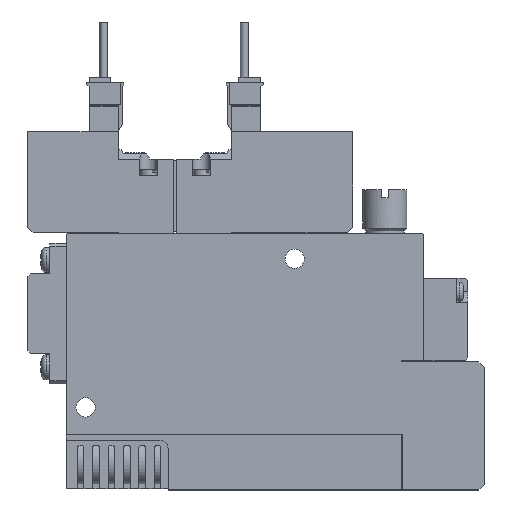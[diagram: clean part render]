
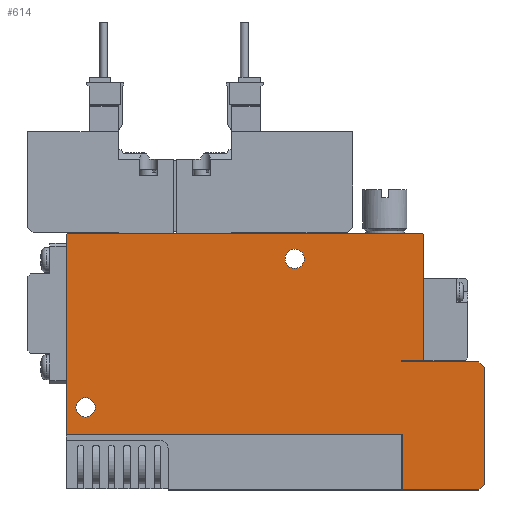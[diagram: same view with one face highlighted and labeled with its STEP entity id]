
A CAD part, top view. The second image highlights one B-rep face of the part: STEP entity #614.
In plain terms, the highlighted planar face has unit normal (0, 0, 1).
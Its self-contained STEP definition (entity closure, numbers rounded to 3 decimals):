
#614=ADVANCED_FACE('',(#1391,#1392,#1393),#1394,.F.);
#1391=FACE_OUTER_BOUND('',#2357,.T.);
#1392=FACE_BOUND('',#2358,.T.);
#1393=FACE_BOUND('',#2359,.T.);
#1394=PLANE('',#2360);
#2357=EDGE_LOOP('',(#5086,#5087,#5088,#5089,#5090,#5091,#5092,#5093,#5094,#5095,#5096,#5097,#5098,#5099));
#2358=EDGE_LOOP('',(#5100));
#2359=EDGE_LOOP('',(#5101));
#2360=AXIS2_PLACEMENT_3D('',#5102,#5103,#5104);
#5086=ORIENTED_EDGE('',*,*,#7228,.T.);
#5087=ORIENTED_EDGE('',*,*,#7229,.F.);
#5088=ORIENTED_EDGE('',*,*,#7230,.F.);
#5089=ORIENTED_EDGE('',*,*,#7231,.T.);
#5090=ORIENTED_EDGE('',*,*,#7232,.T.);
#5091=ORIENTED_EDGE('',*,*,#7233,.T.);
#5092=ORIENTED_EDGE('',*,*,#7234,.T.);
#5093=ORIENTED_EDGE('',*,*,#7235,.T.);
#5094=ORIENTED_EDGE('',*,*,#7236,.T.);
#5095=ORIENTED_EDGE('',*,*,#7237,.T.);
#5096=ORIENTED_EDGE('',*,*,#7238,.T.);
#5097=ORIENTED_EDGE('',*,*,#7239,.T.);
#5098=ORIENTED_EDGE('',*,*,#7240,.T.);
#5099=ORIENTED_EDGE('',*,*,#7241,.T.);
#5100=ORIENTED_EDGE('',*,*,#7242,.F.);
#5101=ORIENTED_EDGE('',*,*,#7243,.F.);
#5102=CARTESIAN_POINT('',(0.0,0.0,5.0));
#5103=DIRECTION('',(0.0,0.0,-1.0));
#5104=DIRECTION('',(0.0,-1.0,0.0));
#7228=EDGE_CURVE('',#8983,#8984,#8985,.T.);
#7229=EDGE_CURVE('',#8986,#8984,#8987,.T.);
#7230=EDGE_CURVE('',#8988,#8986,#8989,.T.);
#7231=EDGE_CURVE('',#8988,#8990,#8991,.T.);
#7232=EDGE_CURVE('',#8990,#8992,#8993,.T.);
#7233=EDGE_CURVE('',#8992,#8994,#8995,.T.);
#7234=EDGE_CURVE('',#8994,#8996,#8997,.T.);
#7235=EDGE_CURVE('',#8996,#8998,#8999,.T.);
#7236=EDGE_CURVE('',#8998,#9000,#9001,.T.);
#7237=EDGE_CURVE('',#9000,#9002,#9003,.T.);
#7238=EDGE_CURVE('',#9002,#9004,#9005,.T.);
#7239=EDGE_CURVE('',#9004,#9006,#9007,.T.);
#7240=EDGE_CURVE('',#9006,#9008,#9009,.T.);
#7241=EDGE_CURVE('',#9008,#8983,#9010,.T.);
#7242=EDGE_CURVE('',#9011,#9011,#9012,.T.);
#7243=EDGE_CURVE('',#9013,#9013,#9014,.T.);
#8983=VERTEX_POINT('',#11824);
#8984=VERTEX_POINT('',#11825);
#8985=LINE('',#11826,#11827);
#8986=VERTEX_POINT('',#11828);
#8987=LINE('',#11829,#11830);
#8988=VERTEX_POINT('',#11831);
#8989=LINE('',#11832,#11833);
#8990=VERTEX_POINT('',#11834);
#8991=LINE('',#11835,#11836);
#8992=VERTEX_POINT('',#11837);
#8993=LINE('',#11838,#11839);
#8994=VERTEX_POINT('',#11840);
#8995=LINE('',#11841,#11842);
#8996=VERTEX_POINT('',#11843);
#8997=LINE('',#11844,#11845);
#8998=VERTEX_POINT('',#11846);
#8999=LINE('',#11847,#11848);
#9000=VERTEX_POINT('',#11849);
#9001=LINE('',#11850,#11851);
#9002=VERTEX_POINT('',#11852);
#9003=LINE('',#11853,#11854);
#9004=VERTEX_POINT('',#11855);
#9005=LINE('',#11856,#11857);
#9006=VERTEX_POINT('',#11858);
#9007=LINE('',#11859,#11860);
#9008=VERTEX_POINT('',#11861);
#9009=LINE('',#11862,#11863);
#9010=LINE('',#11864,#11865);
#9011=VERTEX_POINT('',#11866);
#9012=CIRCLE('',#11867,1.75);
#9013=VERTEX_POINT('',#11868);
#9014=CIRCLE('',#11869,1.75);
#11824=CARTESIAN_POINT('',(0.0,46.4,5.0));
#11825=CARTESIAN_POINT('',(0.0,10.1,5.0));
#11826=CARTESIAN_POINT('',(0.0,46.4,5.0));
#11827=VECTOR('',#13984,1.0);
#11828=CARTESIAN_POINT('',(61.1,10.1,5.0));
#11829=CARTESIAN_POINT('',(61.1,10.1,5.0));
#11830=VECTOR('',#13985,1.0);
#11831=CARTESIAN_POINT('',(61.1,0.0,5.0));
#11832=CARTESIAN_POINT('',(61.1,0.0,5.0));
#11833=VECTOR('',#13986,1.0);
#11834=CARTESIAN_POINT('',(75.0,0.0,5.0));
#11835=CARTESIAN_POINT('',(0.0,0.0,5.0));
#11836=VECTOR('',#13987,1.0);
#11837=CARTESIAN_POINT('',(76.0,1.0,5.0));
#11838=CARTESIAN_POINT('',(75.0,0.0,5.0));
#11839=VECTOR('',#13988,1.0);
#11840=CARTESIAN_POINT('',(76.0,22.25,5.0));
#11841=CARTESIAN_POINT('',(76.0,1.0,5.0));
#11842=VECTOR('',#13989,1.0);
#11843=CARTESIAN_POINT('',(75.0,23.25,5.0));
#11844=CARTESIAN_POINT('',(76.0,22.25,5.0));
#11845=VECTOR('',#13990,1.0);
#11846=CARTESIAN_POINT('',(61.0,23.25,5.0));
#11847=CARTESIAN_POINT('',(75.0,23.25,5.0));
#11848=VECTOR('',#13991,1.0);
#11849=CARTESIAN_POINT('',(61.0,23.5,5.0));
#11850=CARTESIAN_POINT('',(61.0,23.25,5.0));
#11851=VECTOR('',#13992,1.0);
#11852=CARTESIAN_POINT('',(65.0,23.5,5.0));
#11853=CARTESIAN_POINT('',(61.0,23.5,5.0));
#11854=VECTOR('',#13993,1.0);
#11855=CARTESIAN_POINT('',(65.0,46.4,5.0));
#11856=CARTESIAN_POINT('',(65.0,23.5,5.0));
#11857=VECTOR('',#13994,1.0);
#11858=CARTESIAN_POINT('',(64.8,46.6,5.0));
#11859=CARTESIAN_POINT('',(65.0,46.4,5.0));
#11860=VECTOR('',#13995,1.0);
#11861=CARTESIAN_POINT('',(0.2,46.6,5.0));
#11862=CARTESIAN_POINT('',(64.8,46.6,5.0));
#11863=VECTOR('',#13996,1.0);
#11864=CARTESIAN_POINT('',(0.2,46.6,5.0));
#11865=VECTOR('',#13997,1.0);
#11866=CARTESIAN_POINT('',(5.25,15.0,5.0));
#11867=AXIS2_PLACEMENT_3D('',#13998,#13999,#14000);
#11868=CARTESIAN_POINT('',(43.25,42.0,5.0));
#11869=AXIS2_PLACEMENT_3D('',#14001,#14002,#14003);
#13984=DIRECTION('',(0.0,-1.0,0.0));
#13985=DIRECTION('',(-1.0,0.0,0.0));
#13986=DIRECTION('',(0.0,1.0,0.0));
#13987=DIRECTION('',(1.0,0.0,0.0));
#13988=DIRECTION('',(0.707,0.707,0.0));
#13989=DIRECTION('',(0.0,1.0,0.0));
#13990=DIRECTION('',(-0.707,0.707,0.0));
#13991=DIRECTION('',(-1.0,0.0,0.0));
#13992=DIRECTION('',(0.0,1.0,0.0));
#13993=DIRECTION('',(1.0,0.,0.0));
#13994=DIRECTION('',(0.0,1.0,0.0));
#13995=DIRECTION('',(-0.707,0.707,0.0));
#13996=DIRECTION('',(-1.0,0.0,0.0));
#13997=DIRECTION('',(-0.707,-0.707,0.0));
#13998=CARTESIAN_POINT('',(3.5,15.0,5.0));
#13999=DIRECTION('',(0.0,0.0,1.0));
#14000=DIRECTION('',(1.0,0.0,0.0));
#14001=CARTESIAN_POINT('',(41.5,42.0,5.0));
#14002=DIRECTION('',(0.0,0.0,1.0));
#14003=DIRECTION('',(1.0,0.0,0.0));
